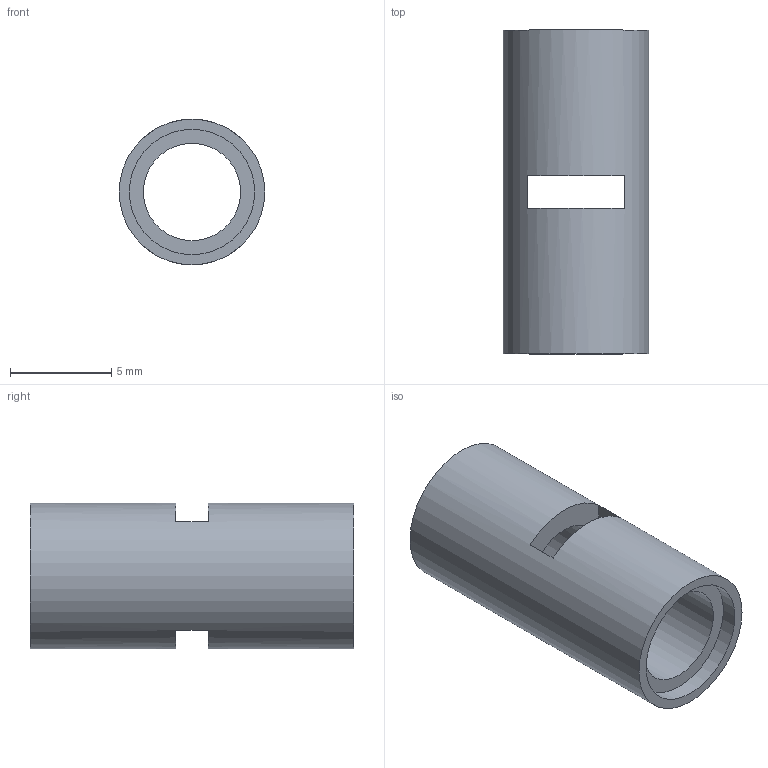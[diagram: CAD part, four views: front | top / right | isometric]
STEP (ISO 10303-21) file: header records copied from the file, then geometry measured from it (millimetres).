
FILE_DESCRIPTION(/* description */ ('Unknown'),/* implementation_level */ '2;1');
FILE_NAME(/* name */ 'Ye_4526983_MCM',/* time_stamp */ '2025-07-22T00:09:49+02:00',/* author */ ('Unknown'),/* organization */ ('Unknown'),/* preprocessor_version */ 'ST-DEVELOPER v19.4',/* originating_system */ 'Solid Edge',/* authorisation */ 'Unknown');
FILE_SCHEMA (('AUTOMOTIVE_DESIGN {1 0 10303 214 3 1 1}'));
Length unit declared in the file: millimetre
Products named in the file (1): Ye_4526983_MCM
Bounding box: 7.2 x 16 x 7.2 mm (x, y, z)
Volume: 314.6 mm3; surface area: 667.6 mm2
Topology: 1 solids, 1 shells, 17 faces, 41 edges, 28 vertices
Faces by surface type: plane 10, cylinder 7
Full cylindrical faces by diameter (mm): 4.8 x2, 6.2 x2, 7.2 x1
Entity records: 508 total; most frequent: DIRECTION 88, CARTESIAN_POINT 78, ORIENTED_EDGE 68, AXIS2_PLACEMENT_3D 36, EDGE_CURVE 34, EDGE_LOOP 30, FACE_BOUND 30, VERTEX_POINT 26
